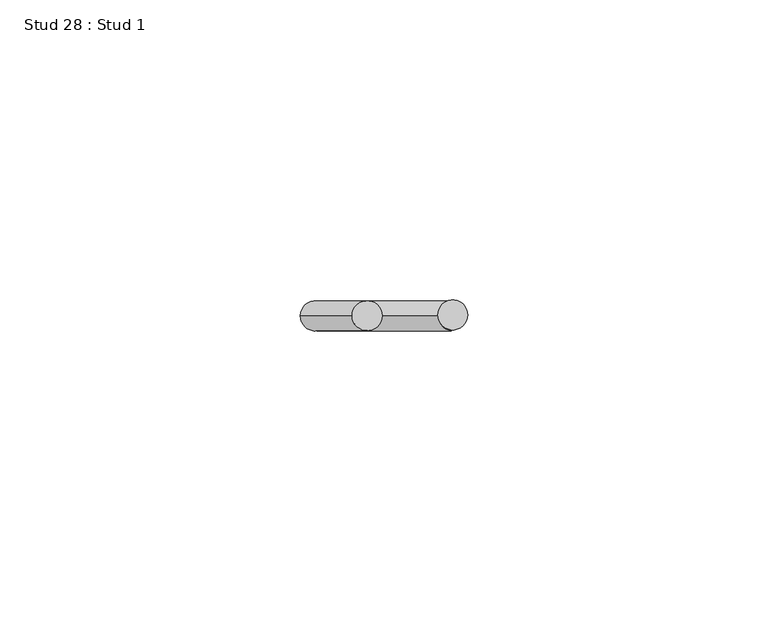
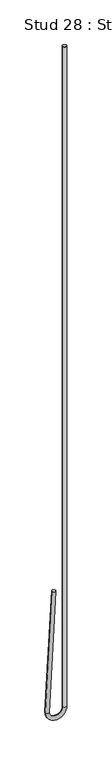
"""IFC4 building model written with IfcOpenShell, lengths in millimetres: proxy geometry, Stud 28 : Stud 1."""

from ifc_helpers import new_model, si_unit, point, frame, origin, place, context, project, spatial, circle_curve, ellipse_curve, trimmed, source, transform, mapped, element, save
from ifc_brep_helpers import plane_surface, cylinder_surface, revolved_surface, advanced_brep


def stud_28_stud_1_dbbdfaf3(model_context):
    return source(origin(), model_context, "Body", "AdvancedBrep", [
        advanced_brep(
        [(-13440.3532788, 9596.5191481, 3640.800192), (-13435.3601311, 9596.5191481, 3640.5385122), (-13448.9939451, 9596.5191481, 3475.9264558), (-13444.0007975, 9596.5191481, 3475.664776), (-13426.0920812, 9596.5191481, 3475.7956159), (-13421.0920812, 9596.5191481, 3475.7956159), (-13421.0920812, 9596.5191481, 4390.1956159), (-13426.0920812, 9596.5191481, 4390.1956159)],
        [
            (0, 1, circle_curve(frame((-13437.8567049, 9596.5191481, 3640.6693521), z_axis=(0.05233595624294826, 0.0, 0.9986295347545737), x_axis=(0.9986295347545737, 0.0, -0.05233595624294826)), 2.5)),
            (1, 0, circle_curve(frame((-13437.8567049, 9596.5191481, 3640.6693521), z_axis=(0.05233595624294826, 0.0, 0.9986295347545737), x_axis=(0.9986295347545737, 0.0, -0.05233595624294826)), 2.5)),
            (0, 2),
            (2, 3, circle_curve(frame((-13446.4973713, 9596.5191481, 3475.7956159), z_axis=(0.05233595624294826, 0.0, 0.9986295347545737), x_axis=(0.9986295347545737, 0.0, -0.05233595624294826)), 2.5)),
            (3, 1),
            (3, 2, circle_curve(frame((-13446.4973713, 9596.5191481, 3475.7956159), z_axis=(0.05233595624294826, 0.0, 0.9986295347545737), x_axis=(0.9986295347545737, 0.0, -0.05233595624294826)), 2.5)),
            (4, 3, circle_curve(frame((-13435.0447263, 9596.5191481, 3475.7956159), z_axis=(0.0, 1.0, 0.0), x_axis=(-1.0, 0.0, 0.0)), 8.952645)),
            (2, 5, circle_curve(frame((-13435.0447263, 9596.5191481, 3475.7956159), z_axis=(0.0, -1.0, 0.0), x_axis=(-1.0, 0.0, 0.0)), 13.952645)),
            (5, 4, circle_curve(frame((-13423.5920812, 9596.5191481, 3475.7956159), z_axis=(0.0, 0.0, -1.0), x_axis=(-1.0, 0.0, 0.0)), 2.5)),
            (4, 5, circle_curve(frame((-13423.5920812, 9596.5191481, 3475.7956159), z_axis=(0.0, 0.0, -1.0), x_axis=(-1.0, 0.0, 0.0)), 2.5)),
            (6, 7, circle_curve(frame((-13423.5920812, 9596.5191481, 4390.1956159), z_axis=(0.0, 0.0, 1.0), x_axis=(-1.0, 0.0, 0.0)), 2.5)),
            (7, 6, circle_curve(frame((-13423.5920812, 9596.5191481, 4390.1956159), z_axis=(0.0, 0.0, 1.0), x_axis=(-1.0, 0.0, 0.0)), 2.5)),
            (5, 6),
            (7, 4),
        ],
        [
            plane_surface(frame((-13437.8567049, 10190.2441481, 3640.6693521), z_axis=(0.05233595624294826, 0.0, 0.9986295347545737), x_axis=(0.0, -1.0, 0.0))),
            cylinder_surface(frame((-13437.8567049, 9596.5191481, 3640.6693521), z_axis=(0.05233595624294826, 0.0, 0.9986295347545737), x_axis=(0.9986295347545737, 0.0, -0.05233595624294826)), 2.5),
            revolved_surface(trimmed(ellipse_curve(frame((-13446.4973713, 9596.5191481, 3475.7956159), z_axis=(0.0, 0.0, 1.0), x_axis=(1.0, 0.0, 0.0)), 2.5, 2.5), [point((-13448.9973713, 9596.5191481, 3475.7956159))], [point((-13443.9973713, 9596.5191481, 3475.7956159))], True, "CARTESIAN"), (-13435.0447263, 10190.2441481, 3475.7956159), (0.0, -1.0, 0.0)),
            revolved_surface(trimmed(ellipse_curve(frame((-13446.4973713, 9596.5191481, 3475.7956159), z_axis=(0.0, 0.0, 1.0), x_axis=(1.0, 0.0, 0.0)), 2.5, 2.5), [point((-13443.9973713, 9596.5191481, 3475.7956159))], [point((-13448.9973713, 9596.5191481, 3475.7956159))], True, "CARTESIAN"), (-13435.0447263, 10190.2441481, 3475.7956159), (0.0, -1.0, 0.0)),
            plane_surface(frame((-13423.5920812, 10190.2441481, 4390.1956159), z_axis=(0.0, 0.0, 1.0), x_axis=(0.0, -1.0, 0.0))),
            cylinder_surface(frame((-13423.5920812, 9596.5191481, 3475.7956159), z_axis=(0.0, 0.0, -1.0), x_axis=(-1.0, 0.0, 0.0)), 2.5),
        ],
        [
            (0, [[1, 2]]),
            (1, [[-1, 3, 4, 5]]),
            (1, [[-2, -5, 6, -3]]),
            (2, [[7, -4, 8, 9]]),
            (3, [[-8, -6, -7, 10]]),
            (4, [[11, 12]]),
            (5, [[-9, 13, -12, 14]]),
            (5, [[-10, -14, -11, -13]]),
        ],
    ),
    ])


if __name__ == "__main__":
    model = new_model("IFC4")
    model_context = context("Model", 3, world=origin())
    ifc_project = project(units=[si_unit("LENGTHUNIT", "METRE", prefix="MILLI")], contexts=[model_context])
    site = spatial("IfcSite", under=ifc_project)
    building = spatial("IfcBuilding", under=site)
    placement = place(None, origin())
    stud_28_stud_1_shape = stud_28_stud_1_dbbdfaf3(model_context)
    element("IfcBuildingElementProxy", 1, Name="Stud 28 : Stud 1", ObjectType="Stud 28 : Stud 1", at=placement, inside=building, context=model_context, shape_type="MappedRepresentation", body=[
        mapped(stud_28_stud_1_shape, transform((0.0, 0.0, 0.0), x_axis=(1.0, 0.0, 0.0), y_axis=(0.0, 1.0, 0.0), z_axis=(0.0, 0.0, 1.0))),
    ])
    save(model, "model.ifc")
